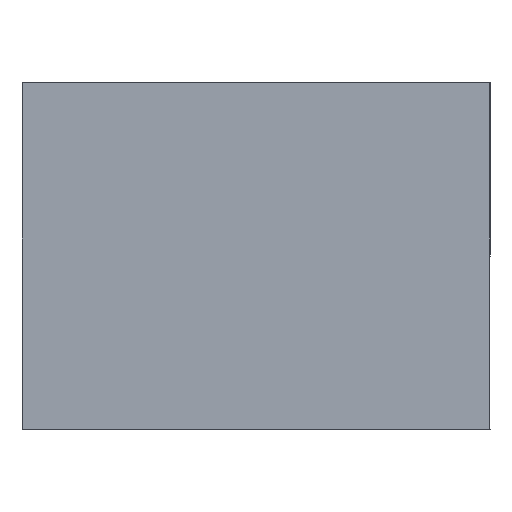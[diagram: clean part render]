
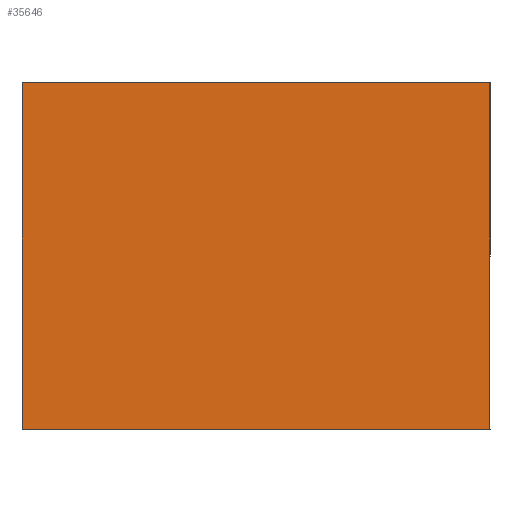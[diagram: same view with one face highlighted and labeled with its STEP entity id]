
A CAD part, front view. The second image highlights one B-rep face of the part: STEP entity #35646.
In plain terms, the highlighted planar face has unit normal (0, -1, 0).
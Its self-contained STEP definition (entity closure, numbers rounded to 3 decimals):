
#1080 = VECTOR ( 'NONE', #32026, 1000. ) ;
#1976 = LINE ( 'NONE', #58405, #49001 ) ;
#7314 = CARTESIAN_POINT ( 'NONE',  ( -329.718, -23.5, -243.217 ) ) ;
#7926 = CARTESIAN_POINT ( 'NONE',  ( 331.718, -23.5, 246.178 ) ) ;
#8581 = ORIENTED_EDGE ( 'NONE', *, *, #49466, .T. ) ;
#8641 = CARTESIAN_POINT ( 'NONE',  ( 331.718, -23.5, 111.217 ) ) ;
#9811 = CARTESIAN_POINT ( 'NONE',  ( -198., -23.5, -243.217 ) ) ;
#12464 = ORIENTED_EDGE ( 'NONE', *, *, #43973, .T. ) ;
#14269 = CARTESIAN_POINT ( 'NONE',  ( -329.718, -23.5, 246.178 ) ) ;
#18149 = ORIENTED_EDGE ( 'NONE', *, *, #29647, .T. ) ;
#20638 = VERTEX_POINT ( 'NONE', #7926 ) ;
#23746 = PLANE ( 'NONE',  #65458 ) ;
#25742 = EDGE_CURVE ( 'NONE', #68222, #20638, #46252, .T. ) ;
#29620 = DIRECTION ( 'NONE',  ( 0., -1., 0. ) ) ;
#29647 = EDGE_CURVE ( 'NONE', #75435, #68222, #58082, .T. ) ;
#32026 = DIRECTION ( 'NONE',  ( 0., 0., 1. ) ) ;
#35076 = EDGE_LOOP ( 'NONE', ( #18149, #55973, #12464, #8581 ) ) ;
#35646 = ADVANCED_FACE ( 'NONE', ( #42342 ), #23746, .T. ) ;
#35738 = VECTOR ( 'NONE', #70191, 1000. ) ;
#42311 = VECTOR ( 'NONE', #74732, 1000. ) ;
#42342 = FACE_OUTER_BOUND ( 'NONE', #35076, .T. ) ;
#43973 = EDGE_CURVE ( 'NONE', #20638, #54609, #51489, .T. ) ;
#46252 = LINE ( 'NONE', #8641, #1080 ) ;
#49001 = VECTOR ( 'NONE', #70252, 1000. ) ;
#49466 = EDGE_CURVE ( 'NONE', #54609, #75435, #1976, .T. ) ;
#51489 = LINE ( 'NONE', #64267, #35738 ) ;
#54609 = VERTEX_POINT ( 'NONE', #14269 ) ;
#55973 = ORIENTED_EDGE ( 'NONE', *, *, #25742, .T. ) ;
#58082 = LINE ( 'NONE', #9811, #42311 ) ;
#58405 = CARTESIAN_POINT ( 'NONE',  ( -329.718, -23.5, 111.217 ) ) ;
#58431 = CARTESIAN_POINT ( 'NONE',  ( 331.718, -23.5, -243.217 ) ) ;
#64267 = CARTESIAN_POINT ( 'NONE',  ( -198., -23.5, 246.178 ) ) ;
#65458 = AXIS2_PLACEMENT_3D ( 'NONE', #70640, #29620, #70909 ) ;
#68222 = VERTEX_POINT ( 'NONE', #58431 ) ;
#70191 = DIRECTION ( 'NONE',  ( -1., 0., 0. ) ) ;
#70252 = DIRECTION ( 'NONE',  ( 0., 0., -1. ) ) ;
#70640 = CARTESIAN_POINT ( 'NONE',  ( -198., -23.5, 111.217 ) ) ;
#70909 = DIRECTION ( 'NONE',  ( 0., 0., -1. ) ) ;
#74732 = DIRECTION ( 'NONE',  ( 1., 0., 0. ) ) ;
#75435 = VERTEX_POINT ( 'NONE', #7314 ) ;
